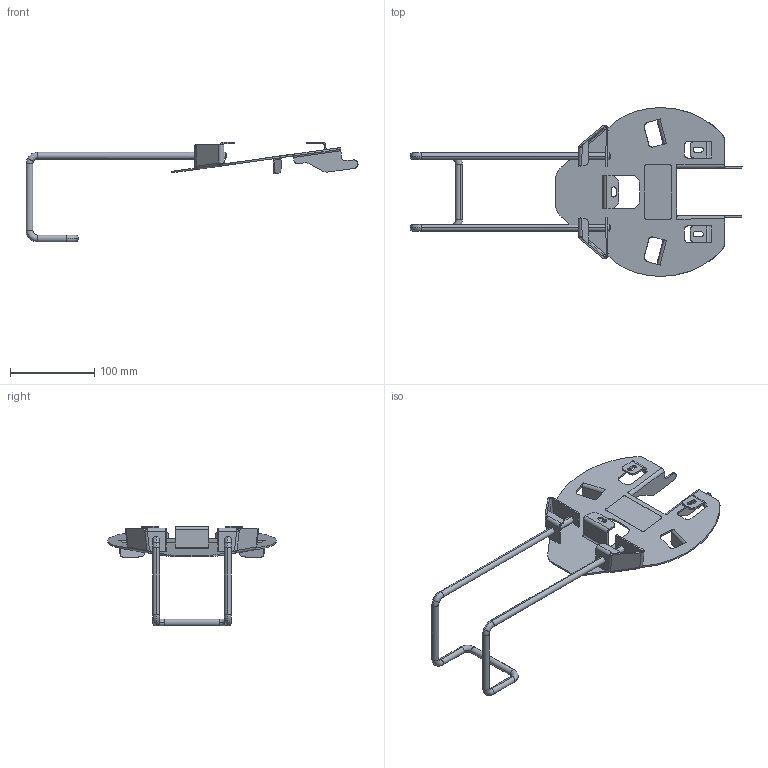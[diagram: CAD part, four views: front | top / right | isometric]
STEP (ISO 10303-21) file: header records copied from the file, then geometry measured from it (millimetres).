
FILE_DESCRIPTION((''),'2;1');
FILE_NAME('KETOP_C200_MOUNTING_BRACKET_WB0','2015-06-12T',('wsbassin'),('Rockwell Automation'),'PRO/ENGINEER BY PARAMETRIC TECHNOLOGY CORPORATION, 2012480','PRO/ENGINEER BY PARAMETRIC TECHNOLOGY CORPORATION, 2012480','');
FILE_SCHEMA(('CONFIG_CONTROL_DESIGN'));
Length unit declared in the file: millimetre
Products named in the file (1): KETOP_C200_MOUNTING_BRACKET_WB0
Bounding box: 393.36 x 200 x 118.01 mm (x, y, z)
Volume: 113517.2 mm3; surface area: 97043.1 mm2
Topology: 1 solids, 1 shells, 333 faces, 884 edges, 556 vertices
Faces by surface type: plane 171, cylinder 126, bspline 16, torus 16, sphere 4
Entity records: 10983 total; most frequent: CARTESIAN_POINT 2570, ORIENTED_EDGE 1764, DIRECTION 1752, EDGE_CURVE 882, AXIS2_PLACEMENT_3D 607, VERTEX_POINT 556, VECTOR 538, LINE 538
